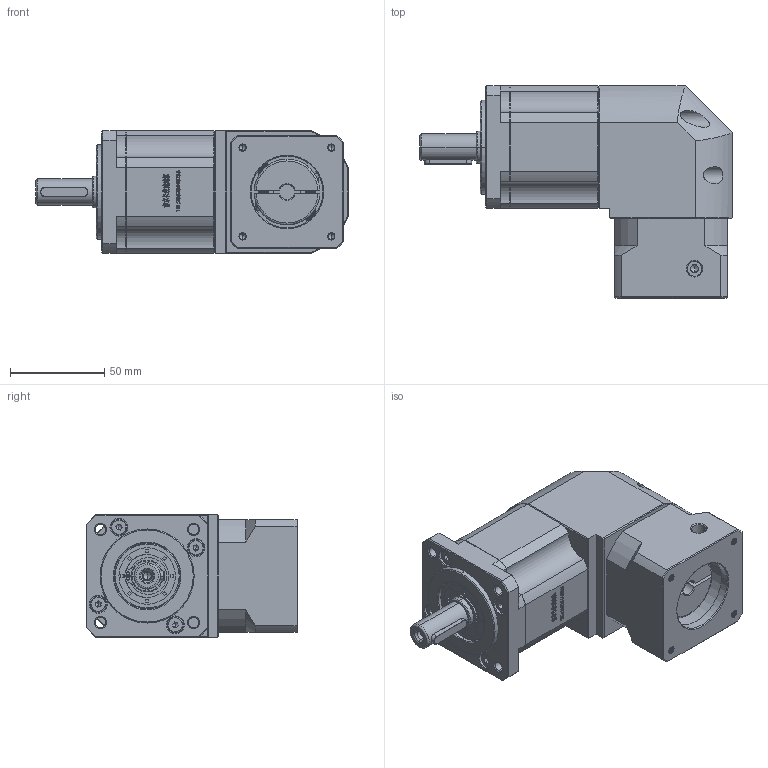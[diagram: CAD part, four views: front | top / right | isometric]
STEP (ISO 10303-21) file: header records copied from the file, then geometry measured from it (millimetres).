
FILE_DESCRIPTION (( 'STEP AP214' ), '1' );
FILE_NAME ('ZBR60-D14-L2-8-38.1-47.14x47.14-M4.STEP', '2022-04-19T08:19:32', ( '' ), ( 'Microsoft' ), 'SwSTEP 2.0', 'SolidWorks 2016', '' );
FILE_SCHEMA (( 'AUTOMOTIVE_DESIGN' ));
Length unit declared in the file: millimetre
Products named in the file (1): ZBR60-D14-L2-8-38.1-47.14x47.14-M4
Bounding box: 166 x 112.7 x 65 mm (x, y, z)
Volume: 591284.1 mm3; surface area: 82944.4 mm2
Topology: 5 solids, 5 shells, 2838 faces, 7695 edges, 4994 vertices
Faces by surface type: plane 1473, bspline 579, cylinder 426, cone 326, torus 34
Entity records: 152802 total; most frequent: CARTESIAN_POINT 54370, ORIENTED_EDGE 15330, DIRECTION 11705, EDGE_CURVE 7665, VECTOR 5039, LINE 5039, VERTEX_POINT 4994, AXIS2_PLACEMENT_3D 3333
